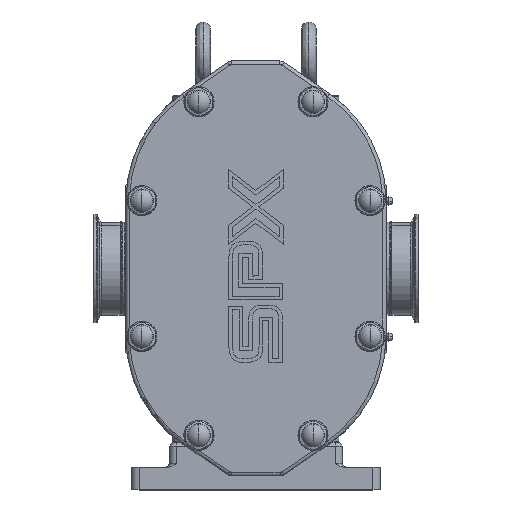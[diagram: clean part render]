
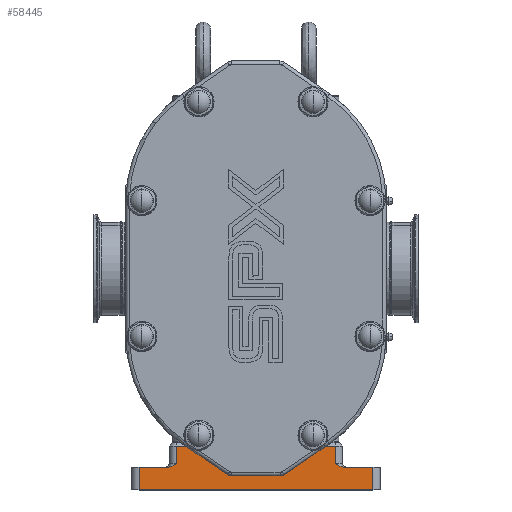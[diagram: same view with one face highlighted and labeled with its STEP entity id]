
A CAD part, top view. The second image highlights one B-rep face of the part: STEP entity #58445.
In plain terms, the highlighted planar face has unit normal (0, 0, 1).
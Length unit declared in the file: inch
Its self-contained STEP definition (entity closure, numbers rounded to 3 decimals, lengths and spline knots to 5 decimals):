
#312 = VERTEX_POINT ( 'NONE', #19403 ) ;
#1913 = DIRECTION ( 'NONE',  ( 0., -1., 0. ) ) ;
#1963 = CARTESIAN_POINT ( 'NONE',  ( 2.623, -6.4375, -2.93 ) ) ;
#2107 = EDGE_CURVE ( 'NONE', #9298, #85619, #3704, .T. ) ;
#2364 = DIRECTION ( 'NONE',  ( 1., 0., 0. ) ) ;
#2420 = ORIENTED_EDGE ( 'NONE', *, *, #35837, .T. ) ;
#3704 = LINE ( 'NONE', #74841, #73190 ) ;
#4050 = CARTESIAN_POINT ( 'NONE',  ( -2.85461, -6.55802, -2.93 ) ) ;
#4280 = LINE ( 'NONE', #32525, #73753 ) ;
#6071 = CARTESIAN_POINT ( 'NONE',  ( 2.87617, -6.5625, -2.93 ) ) ;
#6340 = VECTOR ( 'NONE', #34499, 39.37008 ) ;
#6890 = VERTEX_POINT ( 'NONE', #9127 ) ;
#8158 = CARTESIAN_POINT ( 'NONE',  ( 3.873, -6.5625, -2.93 ) ) ;
#9127 = CARTESIAN_POINT ( 'NONE',  ( 2.90251, -6.5625, -2.93 ) ) ;
#9298 = VERTEX_POINT ( 'NONE', #64790 ) ;
#9333 = EDGE_LOOP ( 'NONE', ( #19783, #12483, #12435, #17243, #40204, #23648, #51675, #80597, #78903, #2420 ) ) ;
#9761 = DIRECTION ( 'NONE',  ( 0., -1., 0. ) ) ;
#10187 = EDGE_CURVE ( 'NONE', #48363, #25724, #57539, .T. ) ;
#10229 = CARTESIAN_POINT ( 'NONE',  ( -2.627, -6.4375, -2.93 ) ) ;
#10243 = CARTESIAN_POINT ( 'NONE',  ( 2.623, -5.87, -2.93 ) ) ;
#10451 = CARTESIAN_POINT ( 'NONE',  ( -3.877, -7.3125, -2.93 ) ) ;
#10779 = CARTESIAN_POINT ( 'NONE',  ( -2.90651, -6.5625, -2.93 ) ) ;
#11530 = VECTOR ( 'NONE', #9761, 39.37008 ) ;
#12435 = ORIENTED_EDGE ( 'NONE', *, *, #53978, .T. ) ;
#12464 = DIRECTION ( 'NONE',  ( 0., -1., 0. ) ) ;
#12483 = ORIENTED_EDGE ( 'NONE', *, *, #32834, .T. ) ;
#12799 = CARTESIAN_POINT ( 'NONE',  ( 2.81303, -6.54688, -2.93 ) ) ;
#13465 = DIRECTION ( 'NONE',  ( -1., 0., 0. ) ) ;
#15727 = LINE ( 'NONE', #50099, #11530 ) ;
#17243 = ORIENTED_EDGE ( 'NONE', *, *, #61523, .T. ) ;
#19403 = CARTESIAN_POINT ( 'NONE',  ( -2.627, -5.87, -2.93 ) ) ;
#19565 = CARTESIAN_POINT ( 'NONE',  ( 2.77672, -6.53247, -2.93 ) ) ;
#19783 = ORIENTED_EDGE ( 'NONE', *, *, #33048, .F. ) ;
#23648 = ORIENTED_EDGE ( 'NONE', *, *, #34458, .T. ) ;
#23790 = CARTESIAN_POINT ( 'NONE',  ( -2.90651, -6.5625, -2.93 ) ) ;
#23983 = VERTEX_POINT ( 'NONE', #1963 ) ;
#25724 = VERTEX_POINT ( 'NONE', #42962 ) ;
#26353 = CARTESIAN_POINT ( 'NONE',  ( 2.70771, -6.49745, -2.93 ) ) ;
#27047 = LINE ( 'NONE', #76205, #45019 ) ;
#27052 = VECTOR ( 'NONE', #55611, 39.37008 ) ;
#27213 = EDGE_CURVE ( 'NONE', #6890, #48363, #27047, .T. ) ;
#30295 = VECTOR ( 'NONE', #1913, 39.37008 ) ;
#30811 = CARTESIAN_POINT ( 'NONE',  ( -2.71171, -6.49745, -2.93 ) ) ;
#31971 = CARTESIAN_POINT ( 'NONE',  ( 2.90251, -6.5625, -2.93 ) ) ;
#32525 = CARTESIAN_POINT ( 'NONE',  ( -2.627, -5.75, -2.93 ) ) ;
#32704 = AXIS2_PLACEMENT_3D ( 'NONE', #87343, #53843, #13465 ) ;
#32834 = EDGE_CURVE ( 'NONE', #40580, #312, #42185, .T. ) ;
#33048 = EDGE_CURVE ( 'NONE', #40580, #23983, #15727, .T. ) ;
#33129 = CARTESIAN_POINT ( 'NONE',  ( 2.623, -6.4375, -2.93 ) ) ;
#34458 = EDGE_CURVE ( 'NONE', #9298, #57231, #66125, .T. ) ;
#34499 = DIRECTION ( 'NONE',  ( -1., 0., 0. ) ) ;
#35837 = EDGE_CURVE ( 'NONE', #6890, #23983, #68581, .T. ) ;
#37626 = CARTESIAN_POINT ( 'NONE',  ( -2.78072, -6.53247, -2.93 ) ) ;
#39633 = VECTOR ( 'NONE', #48479, 39.37008 ) ;
#40204 = ORIENTED_EDGE ( 'NONE', *, *, #2107, .F. ) ;
#40580 = VERTEX_POINT ( 'NONE', #10243 ) ;
#41323 = DIRECTION ( 'NONE',  ( 1., 0., 0. ) ) ;
#42185 = LINE ( 'NONE', #61295, #6340 ) ;
#42962 = CARTESIAN_POINT ( 'NONE',  ( 3.873, -7.3125, -2.93 ) ) ;
#44406 = CARTESIAN_POINT ( 'NONE',  ( -2.81703, -6.54688, -2.93 ) ) ;
#45019 = VECTOR ( 'NONE', #2364, 39.37008 ) ;
#45023 = LINE ( 'NONE', #82641, #27052 ) ;
#47075 = PLANE ( 'NONE',  #32704 ) ;
#48363 = VERTEX_POINT ( 'NONE', #8158 ) ;
#48479 = DIRECTION ( 'NONE',  ( 0., -1., 0. ) ) ;
#50099 = CARTESIAN_POINT ( 'NONE',  ( 2.623, -5.75, -2.93 ) ) ;
#51157 = CARTESIAN_POINT ( 'NONE',  ( -2.88017, -6.5625, -2.93 ) ) ;
#51179 = FACE_OUTER_BOUND ( 'NONE', #9333, .T. ) ;
#51675 = ORIENTED_EDGE ( 'NONE', *, *, #56435, .T. ) ;
#53176 = CARTESIAN_POINT ( 'NONE',  ( 2.85061, -6.55802, -2.93 ) ) ;
#53843 = DIRECTION ( 'NONE',  ( 0., 0., -1. ) ) ;
#53846 = B_SPLINE_CURVE_WITH_KNOTS ( 'NONE', 3,
 ( #10229, #71120, #30811, #77904, #37626, #84683, #44406, #4050, #51157, #10779 ),
 .UNSPECIFIED., .F., .F.,
 ( 4, 2, 2, 2, 4 ),
 ( -0.00002, 0.00394, 0.00492, 0.00591, 0.00789 ),
 .UNSPECIFIED. ) ;
#53978 = EDGE_CURVE ( 'NONE', #312, #79536, #4280, .T. ) ;
#55611 = DIRECTION ( 'NONE',  ( 1., 0., 0. ) ) ;
#55782 = CARTESIAN_POINT ( 'NONE',  ( -3.877, -6.5625, -2.93 ) ) ;
#56435 = EDGE_CURVE ( 'NONE', #57231, #25724, #45023, .T. ) ;
#57231 = VERTEX_POINT ( 'NONE', #10451 ) ;
#57539 = LINE ( 'NONE', #75191, #39633 ) ;
#58445 = ADVANCED_FACE ( 'NONE', ( #51179 ), #47075, .F. ) ;
#59951 = CARTESIAN_POINT ( 'NONE',  ( 2.80068, -6.54242, -2.93 ) ) ;
#61295 = CARTESIAN_POINT ( 'NONE',  ( -2.627, -5.87, -2.93 ) ) ;
#61523 = EDGE_CURVE ( 'NONE', #79536, #85619, #53846, .T. ) ;
#64790 = CARTESIAN_POINT ( 'NONE',  ( -3.877, -6.5625, -2.93 ) ) ;
#66125 = LINE ( 'NONE', #55782, #30295 ) ;
#66683 = CARTESIAN_POINT ( 'NONE',  ( 2.76503, -6.52697, -2.93 ) ) ;
#68581 = B_SPLINE_CURVE_WITH_KNOTS ( 'NONE', 3,
 ( #31971, #6071, #53176, #12799, #59951, #19565, #66683, #26353, #73431, #33129 ),
 .UNSPECIFIED., .F., .F.,
 ( 4, 2, 2, 2, 4 ),
 ( 0., 0.00198, 0.00297, 0.00396, 0.00791 ),
 .UNSPECIFIED. ) ;
#71120 = CARTESIAN_POINT ( 'NONE',  ( -2.66934, -6.46744, -2.93 ) ) ;
#71542 = CARTESIAN_POINT ( 'NONE',  ( -2.627, -6.4375, -2.93 ) ) ;
#73190 = VECTOR ( 'NONE', #41323, 39.37008 ) ;
#73431 = CARTESIAN_POINT ( 'NONE',  ( 2.66538, -6.46747, -2.93 ) ) ;
#73753 = VECTOR ( 'NONE', #12464, 39.37008 ) ;
#74841 = CARTESIAN_POINT ( 'NONE',  ( -3.877, -6.5625, -2.93 ) ) ;
#75191 = CARTESIAN_POINT ( 'NONE',  ( 3.873, -6.5625, -2.93 ) ) ;
#76205 = CARTESIAN_POINT ( 'NONE',  ( -3.877, -6.5625, -2.93 ) ) ;
#77904 = CARTESIAN_POINT ( 'NONE',  ( -2.76903, -6.52697, -2.93 ) ) ;
#78903 = ORIENTED_EDGE ( 'NONE', *, *, #27213, .F. ) ;
#79536 = VERTEX_POINT ( 'NONE', #71542 ) ;
#80597 = ORIENTED_EDGE ( 'NONE', *, *, #10187, .F. ) ;
#82641 = CARTESIAN_POINT ( 'NONE',  ( -3.877, -7.3125, -2.93 ) ) ;
#84683 = CARTESIAN_POINT ( 'NONE',  ( -2.80468, -6.54242, -2.93 ) ) ;
#85619 = VERTEX_POINT ( 'NONE', #23790 ) ;
#87343 = CARTESIAN_POINT ( 'NONE',  ( -3.877, -6.5625, -2.93 ) ) ;
